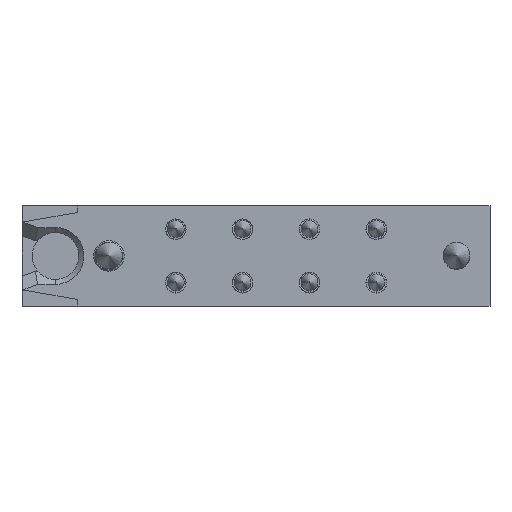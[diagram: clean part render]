
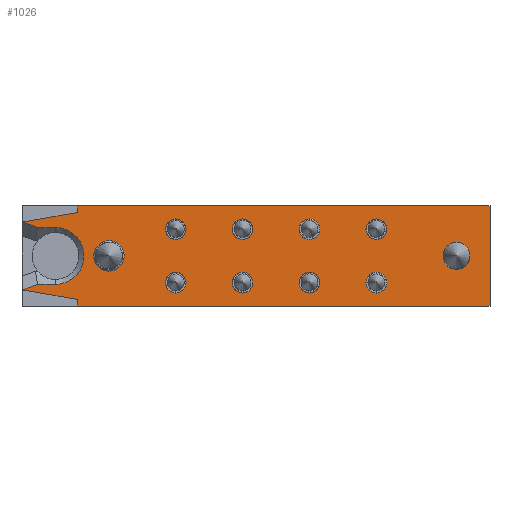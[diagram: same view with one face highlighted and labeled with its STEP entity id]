
A CAD part, top view. The second image highlights one B-rep face of the part: STEP entity #1026.
In plain terms, the highlighted planar face has unit normal (0, 0, 1) as drawn and (0, 0, -1) by its records, which use the part's own axes.
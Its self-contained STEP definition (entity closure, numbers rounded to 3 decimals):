
#159=CIRCLE('',#1157,3.1);
#160=CIRCLE('',#1158,3.1);
#161=CIRCLE('',#1159,3.1);
#162=CIRCLE('',#1160,3.1);
#163=CIRCLE('',#1161,3.1);
#164=CIRCLE('',#1162,3.1);
#165=CIRCLE('',#1163,3.1);
#166=CIRCLE('',#1164,3.1);
#167=CIRCLE('',#1165,4.55);
#168=CIRCLE('',#1166,4.);
#169=CIRCLE('',#1167,8.5);
#221=ORIENTED_EDGE('',*,*,#437,.T.);
#222=ORIENTED_EDGE('',*,*,#438,.T.);
#223=ORIENTED_EDGE('',*,*,#439,.T.);
#224=ORIENTED_EDGE('',*,*,#440,.T.);
#225=ORIENTED_EDGE('',*,*,#441,.T.);
#226=ORIENTED_EDGE('',*,*,#442,.T.);
#227=ORIENTED_EDGE('',*,*,#443,.T.);
#228=ORIENTED_EDGE('',*,*,#444,.T.);
#229=ORIENTED_EDGE('',*,*,#445,.T.);
#230=ORIENTED_EDGE('',*,*,#446,.T.);
#231=ORIENTED_EDGE('',*,*,#447,.F.);
#232=ORIENTED_EDGE('',*,*,#448,.T.);
#233=ORIENTED_EDGE('',*,*,#449,.T.);
#234=ORIENTED_EDGE('',*,*,#450,.T.);
#235=ORIENTED_EDGE('',*,*,#451,.T.);
#236=ORIENTED_EDGE('',*,*,#452,.T.);
#237=ORIENTED_EDGE('',*,*,#453,.T.);
#238=ORIENTED_EDGE('',*,*,#454,.T.);
#239=ORIENTED_EDGE('',*,*,#455,.F.);
#240=ORIENTED_EDGE('',*,*,#456,.F.);
#241=ORIENTED_EDGE('',*,*,#457,.F.);
#242=ORIENTED_EDGE('',*,*,#458,.F.);
#437=EDGE_CURVE('',#545,#545,#159,.T.);
#438=EDGE_CURVE('',#546,#546,#160,.T.);
#439=EDGE_CURVE('',#547,#547,#161,.T.);
#440=EDGE_CURVE('',#548,#548,#162,.T.);
#441=EDGE_CURVE('',#549,#549,#163,.T.);
#442=EDGE_CURVE('',#550,#550,#164,.T.);
#443=EDGE_CURVE('',#551,#551,#165,.T.);
#444=EDGE_CURVE('',#552,#552,#166,.T.);
#445=EDGE_CURVE('',#553,#553,#167,.T.);
#446=EDGE_CURVE('',#554,#554,#168,.T.);
#447=EDGE_CURVE('',#555,#556,#636,.T.);
#448=EDGE_CURVE('',#555,#557,#637,.T.);
#449=EDGE_CURVE('',#557,#558,#638,.T.);
#450=EDGE_CURVE('',#558,#559,#639,.T.);
#451=EDGE_CURVE('',#559,#560,#640,.T.);
#452=EDGE_CURVE('',#560,#561,#169,.T.);
#453=EDGE_CURVE('',#561,#562,#641,.T.);
#454=EDGE_CURVE('',#562,#563,#642,.T.);
#455=EDGE_CURVE('',#564,#563,#643,.T.);
#456=EDGE_CURVE('',#565,#564,#644,.T.);
#457=EDGE_CURVE('',#566,#565,#645,.T.);
#458=EDGE_CURVE('',#556,#566,#646,.T.);
#545=VERTEX_POINT('',#1669);
#546=VERTEX_POINT('',#1671);
#547=VERTEX_POINT('',#1673);
#548=VERTEX_POINT('',#1675);
#549=VERTEX_POINT('',#1677);
#550=VERTEX_POINT('',#1679);
#551=VERTEX_POINT('',#1681);
#552=VERTEX_POINT('',#1683);
#553=VERTEX_POINT('',#1685);
#554=VERTEX_POINT('',#1687);
#555=VERTEX_POINT('',#1689);
#556=VERTEX_POINT('',#1690);
#557=VERTEX_POINT('',#1692);
#558=VERTEX_POINT('',#1694);
#559=VERTEX_POINT('',#1696);
#560=VERTEX_POINT('',#1698);
#561=VERTEX_POINT('',#1700);
#562=VERTEX_POINT('',#1702);
#563=VERTEX_POINT('',#1704);
#564=VERTEX_POINT('',#1706);
#565=VERTEX_POINT('',#1708);
#566=VERTEX_POINT('',#1710);
#636=LINE('',#1688,#686);
#637=LINE('',#1691,#687);
#638=LINE('',#1693,#688);
#639=LINE('',#1695,#689);
#640=LINE('',#1697,#690);
#641=LINE('',#1701,#691);
#642=LINE('',#1703,#692);
#643=LINE('',#1705,#693);
#644=LINE('',#1707,#694);
#645=LINE('',#1709,#695);
#646=LINE('',#1711,#696);
#686=VECTOR('',#1335,1000.);
#687=VECTOR('',#1336,1000.);
#688=VECTOR('',#1337,1000.);
#689=VECTOR('',#1338,1000.);
#690=VECTOR('',#1339,1000.);
#691=VECTOR('',#1342,1000.);
#692=VECTOR('',#1343,1000.);
#693=VECTOR('',#1344,1000.);
#694=VECTOR('',#1345,1000.);
#695=VECTOR('',#1346,1000.);
#696=VECTOR('',#1347,1000.);
#733=EDGE_LOOP('',(#221));
#734=EDGE_LOOP('',(#222));
#735=EDGE_LOOP('',(#223));
#736=EDGE_LOOP('',(#224));
#737=EDGE_LOOP('',(#225));
#738=EDGE_LOOP('',(#226));
#739=EDGE_LOOP('',(#227));
#740=EDGE_LOOP('',(#228));
#741=EDGE_LOOP('',(#229));
#742=EDGE_LOOP('',(#230));
#743=EDGE_LOOP('',(#231,#232,#233,#234,#235,#236,#237,#238,#239,#240,#241,
#242));
#864=FACE_BOUND('',#733,.T.);
#865=FACE_BOUND('',#734,.T.);
#866=FACE_BOUND('',#735,.T.);
#867=FACE_BOUND('',#736,.T.);
#868=FACE_BOUND('',#737,.T.);
#869=FACE_BOUND('',#738,.T.);
#870=FACE_BOUND('',#739,.T.);
#871=FACE_BOUND('',#740,.T.);
#872=FACE_BOUND('',#741,.T.);
#873=FACE_BOUND('',#742,.T.);
#874=FACE_BOUND('',#743,.T.);
#997=PLANE('',#1156);
#1026=ADVANCED_FACE('',(#864,#865,#866,#867,#868,#869,#870,#871,#872,#873,
#874),#997,.F.);
#1156=AXIS2_PLACEMENT_3D('',#1667,#1313,#1314);
#1157=AXIS2_PLACEMENT_3D('',#1668,#1315,#1316);
#1158=AXIS2_PLACEMENT_3D('',#1670,#1317,#1318);
#1159=AXIS2_PLACEMENT_3D('',#1672,#1319,#1320);
#1160=AXIS2_PLACEMENT_3D('',#1674,#1321,#1322);
#1161=AXIS2_PLACEMENT_3D('',#1676,#1323,#1324);
#1162=AXIS2_PLACEMENT_3D('',#1678,#1325,#1326);
#1163=AXIS2_PLACEMENT_3D('',#1680,#1327,#1328);
#1164=AXIS2_PLACEMENT_3D('',#1682,#1329,#1330);
#1165=AXIS2_PLACEMENT_3D('',#1684,#1331,#1332);
#1166=AXIS2_PLACEMENT_3D('',#1686,#1333,#1334);
#1167=AXIS2_PLACEMENT_3D('',#1699,#1340,#1341);
#1313=DIRECTION('',(0.,0.,1.));
#1314=DIRECTION('',(1.,0.,0.));
#1315=DIRECTION('',(0.,0.,1.));
#1316=DIRECTION('',(1.,0.,0.));
#1317=DIRECTION('',(0.,0.,1.));
#1318=DIRECTION('',(1.,0.,0.));
#1319=DIRECTION('',(0.,0.,1.));
#1320=DIRECTION('',(1.,0.,0.));
#1321=DIRECTION('',(0.,0.,1.));
#1322=DIRECTION('',(1.,0.,0.));
#1323=DIRECTION('',(0.,0.,1.));
#1324=DIRECTION('',(1.,0.,0.));
#1325=DIRECTION('',(0.,0.,1.));
#1326=DIRECTION('',(1.,0.,0.));
#1327=DIRECTION('',(0.,0.,1.));
#1328=DIRECTION('',(1.,0.,0.));
#1329=DIRECTION('',(0.,0.,1.));
#1330=DIRECTION('',(1.,0.,0.));
#1331=DIRECTION('',(0.,0.,1.));
#1332=DIRECTION('',(1.,0.,0.));
#1333=DIRECTION('',(0.,0.,1.));
#1334=DIRECTION('',(1.,0.,0.));
#1335=DIRECTION('',(-1.,0.,0.));
#1336=DIRECTION('',(0.,-1.,0.));
#1337=DIRECTION('',(0.985,-0.174,0.));
#1338=DIRECTION('',(-0.94,-0.342,0.));
#1339=DIRECTION('',(-1.,0.,0.));
#1340=DIRECTION('',(0.,0.,1.));
#1341=DIRECTION('',(1.,0.,0.));
#1342=DIRECTION('',(1.,0.,0.));
#1343=DIRECTION('',(0.94,-0.342,0.));
#1344=DIRECTION('',(0.985,0.174,0.));
#1345=DIRECTION('',(0.,1.,0.));
#1346=DIRECTION('',(1.,0.,0.));
#1347=DIRECTION('',(0.,-1.,0.));
#1667=CARTESIAN_POINT('',(-70.,15.,-5.));
#1668=CARTESIAN_POINT('',(-36.,8.,-5.));
#1669=CARTESIAN_POINT('',(-32.9,8.,-5.));
#1670=CARTESIAN_POINT('',(-36.,-8.,-5.));
#1671=CARTESIAN_POINT('',(-32.9,-8.,-5.));
#1672=CARTESIAN_POINT('',(-16.,8.,-5.));
#1673=CARTESIAN_POINT('',(-12.9,8.,-5.));
#1674=CARTESIAN_POINT('',(-16.,-8.,-5.));
#1675=CARTESIAN_POINT('',(-12.9,-8.,-5.));
#1676=CARTESIAN_POINT('',(4.,8.,-5.));
#1677=CARTESIAN_POINT('',(7.1,8.,-5.));
#1678=CARTESIAN_POINT('',(4.,-8.,-5.));
#1679=CARTESIAN_POINT('',(7.1,-8.,-5.));
#1680=CARTESIAN_POINT('',(24.,8.,-5.));
#1681=CARTESIAN_POINT('',(27.1,8.,-5.));
#1682=CARTESIAN_POINT('',(24.,-8.,-5.));
#1683=CARTESIAN_POINT('',(27.1,-8.,-5.));
#1684=CARTESIAN_POINT('',(44.,0.,-5.));
#1685=CARTESIAN_POINT('',(48.55,0.,-5.));
#1686=CARTESIAN_POINT('',(-60.,0.,-5.));
#1687=CARTESIAN_POINT('',(-56.,0.,-5.));
#1688=CARTESIAN_POINT('',(70.,15.,-5.));
#1689=CARTESIAN_POINT('',(53.5,15.,-5.));
#1690=CARTESIAN_POINT('',(-70.,15.,-5.));
#1691=CARTESIAN_POINT('',(53.5,15.,-5.));
#1692=CARTESIAN_POINT('',(53.5,13.,-5.));
#1693=CARTESIAN_POINT('',(-66.618,34.18,-5.));
#1694=CARTESIAN_POINT('',(69.78,10.129,-5.));
#1695=CARTESIAN_POINT('',(64.649,8.262,-5.));
#1696=CARTESIAN_POINT('',(65.304,8.5,-5.));
#1697=CARTESIAN_POINT('',(60.,8.5,-5.));
#1698=CARTESIAN_POINT('',(60.,8.5,-5.));
#1699=CARTESIAN_POINT('',(60.,0.,-5.));
#1700=CARTESIAN_POINT('',(60.,-8.5,-5.));
#1701=CARTESIAN_POINT('',(66.,-8.5,-5.));
#1702=CARTESIAN_POINT('',(65.304,-8.5,-5.));
#1703=CARTESIAN_POINT('',(68.649,-9.718,-5.));
#1704=CARTESIAN_POINT('',(69.78,-10.129,-5.));
#1705=CARTESIAN_POINT('',(-61.488,-33.275,-5.));
#1706=CARTESIAN_POINT('',(53.5,-13.,-5.));
#1707=CARTESIAN_POINT('',(53.5,15.,-5.));
#1708=CARTESIAN_POINT('',(53.5,-15.,-5.));
#1709=CARTESIAN_POINT('',(-70.,-15.,-5.));
#1710=CARTESIAN_POINT('',(-70.,-15.,-5.));
#1711=CARTESIAN_POINT('',(-70.,15.,-5.));
